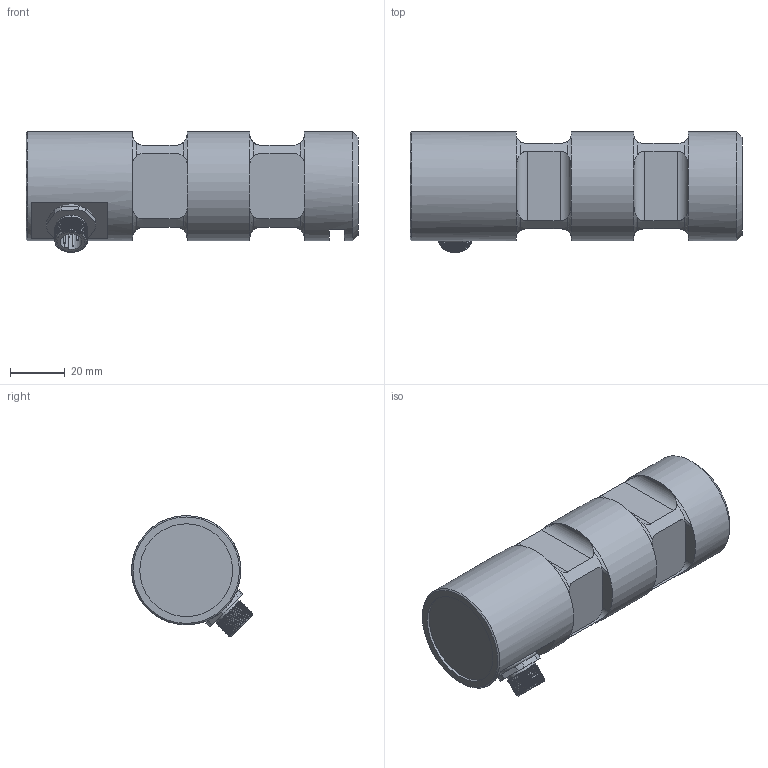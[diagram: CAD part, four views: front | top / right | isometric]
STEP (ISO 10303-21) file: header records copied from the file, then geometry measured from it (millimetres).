
FILE_DESCRIPTION(/* description */ ('Alibre Inc.'),/* implementation_level */ '2;1');
FILE_NAME(/* name */ 'export1',/* time_stamp */ '2018-05-09T16:04:37+02:00',/* author */ (''),/* organization */ (''),/* preprocessor_version */ 'ST-DEVELOPER v17',/* originating_system */ 'Alibre',/* authorisation */ '');
FILE_SCHEMA (('CONFIG_CONTROL_DESIGN'));
Length unit declared in the file: millimetre
Products named in the file (6): ID_1; ID_2; ID_3; ID_4
Bounding box: 121.6 x 44.25 x 44.25 mm (x, y, z)
Volume: 134855.9 mm3; surface area: 22930.6 mm2
Topology: 8 solids, 8 shells, 198 faces, 455 edges, 278 vertices
Faces by surface type: plane 81, cylinder 70, bspline 23, torus 17, cone 7
Full cylindrical faces by diameter (mm): 0.5 x8, 8 x2, 10 x3, 11.5 x1, 13 x1, 14.376 x1, 34 x1, 40 x3
Entity records: 19077 total; most frequent: CARTESIAN_POINT 14930, ORIENTED_EDGE 834, DIRECTION 505, EDGE_CURVE 412, VERTEX_POINT 266, FACE_BOUND 241, EDGE_LOOP 239, AXIS2_PLACEMENT_3D 222
